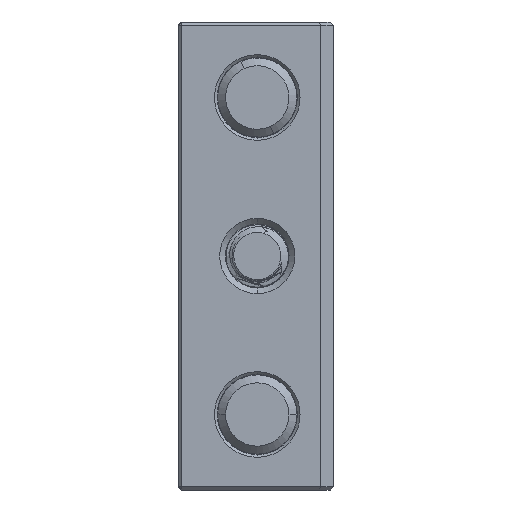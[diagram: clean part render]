
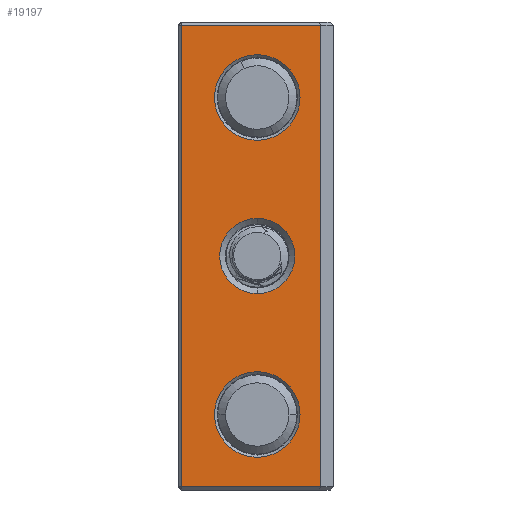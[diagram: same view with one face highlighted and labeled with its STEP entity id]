
A CAD part, left-side view. The second image highlights one B-rep face of the part: STEP entity #19197.
In plain terms, the highlighted planar face has unit normal (-1, 0, 0) as drawn and (1, 0, 0) by its records, which use the part's own axes.
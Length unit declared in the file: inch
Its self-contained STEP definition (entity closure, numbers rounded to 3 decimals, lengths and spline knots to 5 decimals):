
#251 = DIRECTION ( 'NONE',  ( 1., 0., 0. ) ) ;
#505 = CARTESIAN_POINT ( 'NONE',  ( 0.98425, 0.96, 0.02 ) ) ;
#581 = CARTESIAN_POINT ( 'NONE',  ( 0.98425, 0.48, 0.47638 ) ) ;
#719 = CARTESIAN_POINT ( 'NONE',  ( 0.98425, 0.08, 2.93276 ) ) ;
#1034 = AXIS2_PLACEMENT_3D ( 'NONE', #27406, #5705, #8703 ) ;
#1238 = DIRECTION ( 'NONE',  ( 0., 0., 1. ) ) ;
#1422 = DIRECTION ( 'NONE',  ( 0., -1., 0. ) ) ;
#1678 = DIRECTION ( 'NONE',  ( 0., 0., 1. ) ) ;
#2423 = VERTEX_POINT ( 'NONE', #9603 ) ;
#3069 = CIRCLE ( 'NONE', #1034, 0.27 ) ;
#3528 = LINE ( 'NONE', #24932, #14316 ) ;
#3773 = EDGE_CURVE ( 'NONE', #2423, #16119, #17247, .T. ) ;
#4041 = CARTESIAN_POINT ( 'NONE',  ( 0.98425, 0.08, 0.02 ) ) ;
#4057 = DIRECTION ( 'NONE',  ( -1., 0., 0. ) ) ;
#4307 = AXIS2_PLACEMENT_3D ( 'NONE', #30670, #4057, #1678 ) ;
#5205 = EDGE_CURVE ( 'NONE', #28150, #14128, #5765, .T. ) ;
#5323 = CIRCLE ( 'NONE', #4307, 0.2372 ) ;
#5324 = CIRCLE ( 'NONE', #27591, 0.27 ) ;
#5705 = DIRECTION ( 'NONE',  ( 1., 0., 0. ) ) ;
#5765 = CIRCLE ( 'NONE', #17911, 0.27 ) ;
#5993 = LINE ( 'NONE', #19946, #14354 ) ;
#6538 = CARTESIAN_POINT ( 'NONE',  ( 0.98425, 0.48, 0.74638 ) ) ;
#6619 = FACE_OUTER_BOUND ( 'NONE', #12346, .T. ) ;
#8181 = EDGE_CURVE ( 'NONE', #25591, #19555, #5324, .T. ) ;
#8282 = VERTEX_POINT ( 'NONE', #719 ) ;
#8703 = DIRECTION ( 'NONE',  ( 0., 0., -1. ) ) ;
#9567 = EDGE_LOOP ( 'NONE', ( #28517, #9859 ) ) ;
#9603 = CARTESIAN_POINT ( 'NONE',  ( 0.98425, 0.48, 1.23917 ) ) ;
#9859 = ORIENTED_EDGE ( 'NONE', *, *, #23807, .T. ) ;
#11179 = CARTESIAN_POINT ( 'NONE',  ( 0.98425, 0.48, 2.74638 ) ) ;
#11271 = DIRECTION ( 'NONE',  ( 0., 1., 0. ) ) ;
#11386 = EDGE_CURVE ( 'NONE', #14128, #28150, #12871, .T. ) ;
#11539 = CARTESIAN_POINT ( 'NONE',  ( 0.98425, 0., 2.95276 ) ) ;
#11732 = VERTEX_POINT ( 'NONE', #4041 ) ;
#11961 = CARTESIAN_POINT ( 'NONE',  ( 0.98425, 0.48, 2.20638 ) ) ;
#12346 = EDGE_LOOP ( 'NONE', ( #16155, #29528, #30617, #15728 ) ) ;
#12690 = EDGE_CURVE ( 'NONE', #20870, #21834, #5993, .T. ) ;
#12871 = CIRCLE ( 'NONE', #18443, 0.27 ) ;
#12982 = DIRECTION ( 'NONE',  ( 0., 0., 1. ) ) ;
#13892 = ORIENTED_EDGE ( 'NONE', *, *, #8181, .F. ) ;
#14124 = CARTESIAN_POINT ( 'NONE',  ( 0.98425, 0.48, 0.47638 ) ) ;
#14128 = VERTEX_POINT ( 'NONE', #17970 ) ;
#14316 = VECTOR ( 'NONE', #27765, 39.37008 ) ;
#14354 = VECTOR ( 'NONE', #1238, 39.37008 ) ;
#14436 = DIRECTION ( 'NONE',  ( 0., 0., -1. ) ) ;
#14564 = EDGE_LOOP ( 'NONE', ( #13892, #14831 ) ) ;
#14831 = ORIENTED_EDGE ( 'NONE', *, *, #15785, .F. ) ;
#15446 = VECTOR ( 'NONE', #11271, 39.37008 ) ;
#15728 = ORIENTED_EDGE ( 'NONE', *, *, #27023, .T. ) ;
#15785 = EDGE_CURVE ( 'NONE', #19555, #25591, #3069, .T. ) ;
#16119 = VERTEX_POINT ( 'NONE', #29129 ) ;
#16155 = ORIENTED_EDGE ( 'NONE', *, *, #16829, .T. ) ;
#16307 = LINE ( 'NONE', #25667, #25598 ) ;
#16829 = EDGE_CURVE ( 'NONE', #8282, #11732, #3528, .T. ) ;
#17247 = CIRCLE ( 'NONE', #19267, 0.2372 ) ;
#17911 = AXIS2_PLACEMENT_3D ( 'NONE', #14124, #23799, #14436 ) ;
#17970 = CARTESIAN_POINT ( 'NONE',  ( 0.98425, 0.48, 0.20638 ) ) ;
#18013 = CARTESIAN_POINT ( 'NONE',  ( 0.98425, 0.96, 2.93276 ) ) ;
#18443 = AXIS2_PLACEMENT_3D ( 'NONE', #581, #22735, #29721 ) ;
#19197 = ADVANCED_FACE ( 'NONE', ( #21350, #25950, #28307, #6619 ), #20874, .F. ) ;
#19267 = AXIS2_PLACEMENT_3D ( 'NONE', #25032, #20271, #12982 ) ;
#19555 = VERTEX_POINT ( 'NONE', #11179 ) ;
#19624 = ORIENTED_EDGE ( 'NONE', *, *, #11386, .F. ) ;
#19743 = CARTESIAN_POINT ( 'NONE',  ( 0.98425, 0.48, 2.47638 ) ) ;
#19882 = ORIENTED_EDGE ( 'NONE', *, *, #5205, .F. ) ;
#19946 = CARTESIAN_POINT ( 'NONE',  ( 0.98425, 0.96, 2.95276 ) ) ;
#20271 = DIRECTION ( 'NONE',  ( -1., 0., 0. ) ) ;
#20778 = LINE ( 'NONE', #25697, #15446 ) ;
#20870 = VERTEX_POINT ( 'NONE', #505 ) ;
#20874 = PLANE ( 'NONE',  #28058 ) ;
#21037 = DIRECTION ( 'NONE',  ( 0., 0., 1. ) ) ;
#21350 = FACE_BOUND ( 'NONE', #29990, .T. ) ;
#21498 = DIRECTION ( 'NONE',  ( 0., 0., -1. ) ) ;
#21834 = VERTEX_POINT ( 'NONE', #18013 ) ;
#22735 = DIRECTION ( 'NONE',  ( 1., 0., 0. ) ) ;
#23799 = DIRECTION ( 'NONE',  ( 1., 0., 0. ) ) ;
#23807 = EDGE_CURVE ( 'NONE', #16119, #2423, #5323, .T. ) ;
#24525 = EDGE_CURVE ( 'NONE', #11732, #20870, #20778, .T. ) ;
#24932 = CARTESIAN_POINT ( 'NONE',  ( 0.98425, 0.08, 2.95276 ) ) ;
#25032 = CARTESIAN_POINT ( 'NONE',  ( 0.98425, 0.48, 1.47638 ) ) ;
#25591 = VERTEX_POINT ( 'NONE', #11961 ) ;
#25598 = VECTOR ( 'NONE', #1422, 39.37008 ) ;
#25667 = CARTESIAN_POINT ( 'NONE',  ( 0.98425, 0., 2.93276 ) ) ;
#25697 = CARTESIAN_POINT ( 'NONE',  ( 0.98425, 0.98, 0.02 ) ) ;
#25950 = FACE_BOUND ( 'NONE', #14564, .T. ) ;
#27023 = EDGE_CURVE ( 'NONE', #21834, #8282, #16307, .T. ) ;
#27406 = CARTESIAN_POINT ( 'NONE',  ( 0.98425, 0.48, 2.47638 ) ) ;
#27591 = AXIS2_PLACEMENT_3D ( 'NONE', #19743, #251, #21498 ) ;
#27765 = DIRECTION ( 'NONE',  ( 0., 0., -1. ) ) ;
#28058 = AXIS2_PLACEMENT_3D ( 'NONE', #11539, #28635, #21037 ) ;
#28150 = VERTEX_POINT ( 'NONE', #6538 ) ;
#28307 = FACE_BOUND ( 'NONE', #9567, .T. ) ;
#28517 = ORIENTED_EDGE ( 'NONE', *, *, #3773, .T. ) ;
#28635 = DIRECTION ( 'NONE',  ( -1., 0., 0. ) ) ;
#29129 = CARTESIAN_POINT ( 'NONE',  ( 0.98425, 0.48, 1.71358 ) ) ;
#29528 = ORIENTED_EDGE ( 'NONE', *, *, #24525, .T. ) ;
#29721 = DIRECTION ( 'NONE',  ( 0., 0., -1. ) ) ;
#29990 = EDGE_LOOP ( 'NONE', ( #19624, #19882 ) ) ;
#30617 = ORIENTED_EDGE ( 'NONE', *, *, #12690, .T. ) ;
#30670 = CARTESIAN_POINT ( 'NONE',  ( 0.98425, 0.48, 1.47638 ) ) ;
